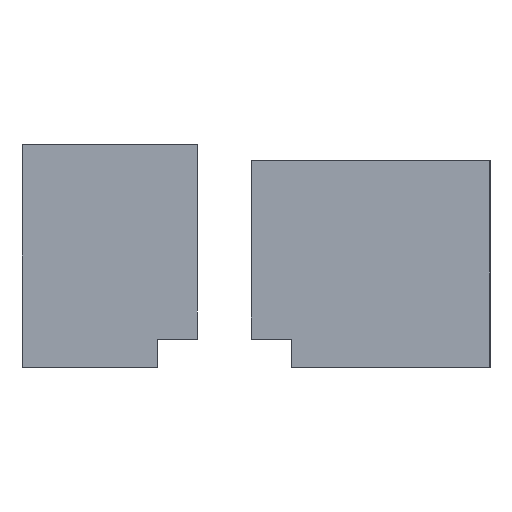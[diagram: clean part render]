
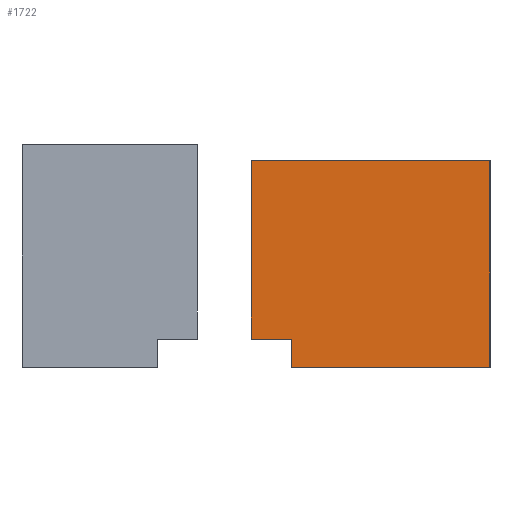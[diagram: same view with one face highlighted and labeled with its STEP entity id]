
A CAD part, left-side view. The second image highlights one B-rep face of the part: STEP entity #1722.
In plain terms, the highlighted planar face has unit normal (-1, 0, 0).
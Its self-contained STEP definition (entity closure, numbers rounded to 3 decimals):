
#136=PLANE('',#1901);
#242=FACE_OUTER_BOUND('',#392,.T.);
#392=EDGE_LOOP('',(#1577,#1578,#1579,#1580,#1581,#1582));
#515=LINE('',#2785,#669);
#522=LINE('',#2798,#676);
#539=LINE('',#2868,#693);
#541=LINE('',#2873,#695);
#544=LINE('',#2877,#698);
#546=LINE('',#2881,#700);
#669=VECTOR('',#2298,10.);
#676=VECTOR('',#2309,10.);
#693=VECTOR('',#2388,10.);
#695=VECTOR('',#2392,10.);
#698=VECTOR('',#2397,10.);
#700=VECTOR('',#2403,10.);
#887=VERTEX_POINT('',#2782);
#888=VERTEX_POINT('',#2784);
#892=VERTEX_POINT('',#2797);
#912=VERTEX_POINT('',#2862);
#914=VERTEX_POINT('',#2866);
#915=VERTEX_POINT('',#2870);
#1091=EDGE_CURVE('',#888,#887,#515,.T.);
#1098=EDGE_CURVE('',#888,#892,#522,.T.);
#1131=EDGE_CURVE('',#912,#914,#539,.T.);
#1133=EDGE_CURVE('',#914,#915,#541,.T.);
#1136=EDGE_CURVE('',#915,#892,#544,.T.);
#1138=EDGE_CURVE('',#887,#912,#546,.T.);
#1577=ORIENTED_EDGE('',*,*,#1091,.T.);
#1578=ORIENTED_EDGE('',*,*,#1138,.T.);
#1579=ORIENTED_EDGE('',*,*,#1131,.T.);
#1580=ORIENTED_EDGE('',*,*,#1133,.T.);
#1581=ORIENTED_EDGE('',*,*,#1136,.T.);
#1582=ORIENTED_EDGE('',*,*,#1098,.F.);
#1722=ADVANCED_FACE('',(#242),#136,.T.);
#1901=AXIS2_PLACEMENT_3D('',#2882,#2404,#2405);
#2298=DIRECTION('',(0.,1.,0.));
#2309=DIRECTION('',(0.,0.,-1.));
#2388=DIRECTION('',(0.,-1.,0.));
#2392=DIRECTION('',(0.,0.,-1.));
#2397=DIRECTION('',(0.,-1.,0.));
#2403=DIRECTION('',(0.,0.,-1.));
#2404=DIRECTION('center_axis',(-1.,0.,0.));
#2405=DIRECTION('ref_axis',(0.,0.,-1.));
#2782=CARTESIAN_POINT('',(-70.,-28.8,-2.));
#2784=CARTESIAN_POINT('',(-70.,-58.8,-2.));
#2785=CARTESIAN_POINT('',(-70.,26.2,-2.));
#2797=CARTESIAN_POINT('',(-70.,-58.8,-28.));
#2798=CARTESIAN_POINT('',(-70.,-58.8,-28.));
#2862=CARTESIAN_POINT('',(-70.,-28.8,-24.437));
#2866=CARTESIAN_POINT('',(-70.,-33.8,-24.437));
#2868=CARTESIAN_POINT('',(-70.,26.2,-24.437));
#2870=CARTESIAN_POINT('',(-70.,-33.8,-28.));
#2873=CARTESIAN_POINT('',(-70.,-33.8,-13.109));
#2877=CARTESIAN_POINT('',(-70.,26.2,-28.));
#2881=CARTESIAN_POINT('',(-70.,-28.8,-7.));
#2882=CARTESIAN_POINT('Origin',(-70.,26.2,0.));
